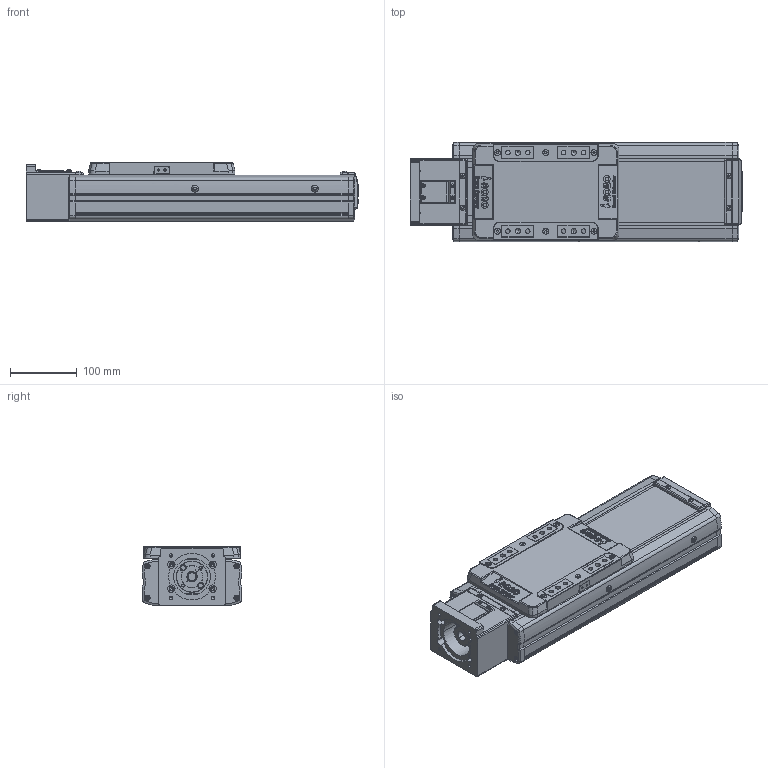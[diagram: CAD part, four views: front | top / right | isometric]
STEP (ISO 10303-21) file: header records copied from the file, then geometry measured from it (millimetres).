
FILE_DESCRIPTION(('STEP AP214'),'1');
FILE_NAME('Z:/Web/3D/SAN150/2013.04 (STP.)/SAN150ㅁㅁ-150S.stp','2013-05-08T02:38:13',(' '),(' '),'Spatial InterOp 3D',' ',' ');
FILE_SCHEMA(('automotive_design'));
Length unit declared in the file: millimetre
Products named in the file (75): SLBL-SAN150; SLCV-SAN150; FHCS M4.0 x 8.0; BHCS M4.0 x 10.0; SFX-SAN150; RRCV-SAN150; FRBL-SAN150; Spacer; RN15; FRCV-SAN150; Screw 20; BASE-SAN150-000L ; SUS COVER; 스크루 : Round - M5.0 x 6.0; BHCS M3.0 x 6.0; SSFX-SAN65; CPLCV-SAN65; SDWA47C(2); SDWA47C(3-1); SDWA47C(3); SDWA47C(1); SDWA47C(4); SDWA47C(5); MTHZ-SAN150-80
Bounding box: 499 x 150 x 90 mm (x, y, z)
Volume: 3387773.4 mm3; surface area: 663296.4 mm2
Topology: 75 solids, 75 shells, 2749 faces, 7142 edges, 4616 vertices
Faces by surface type: plane 1194, cylinder 1113, cone 341, sphere 56, bspline 29, torus 16
Entity records: 110786 total; most frequent: CARTESIAN_POINT 17792, DIRECTION 15555, ORIENTED_EDGE 14092, EDGE_CURVE 7046, AXIS2_PLACEMENT_3D 5850, VERTEX_POINT 4616, LINE 3855, VECTOR 3855
